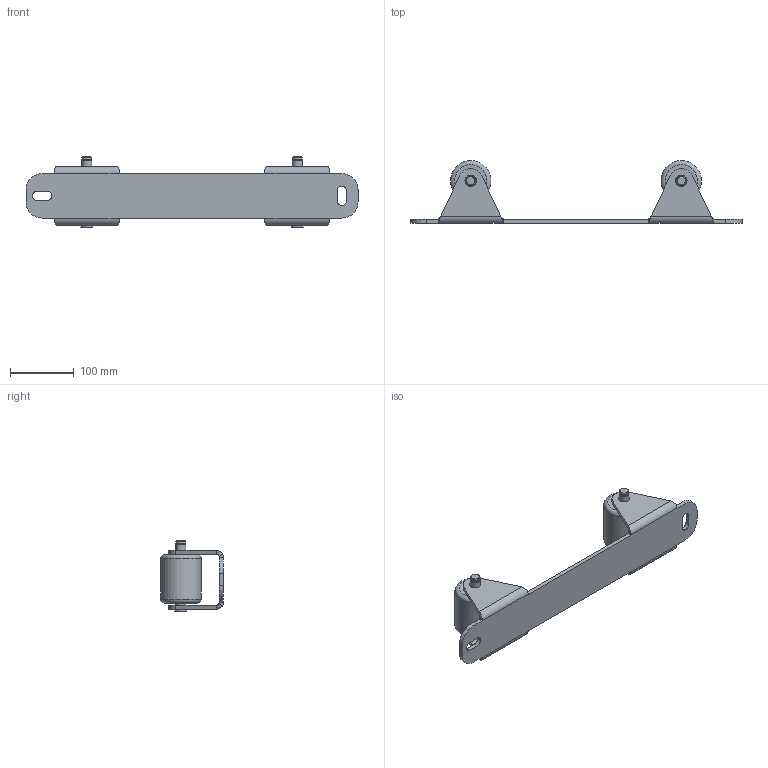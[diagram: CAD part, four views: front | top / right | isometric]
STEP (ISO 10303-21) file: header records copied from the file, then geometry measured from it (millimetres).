
FILE_DESCRIPTION (( 'STEP AP203' ), '1' );
FILE_NAME ('3000-ST-01-001.STEP', '2022-07-19T19:28:12', ( '' ), ( '' ), 'SwSTEP 2.0', 'SolidWorks 2019', '' );
FILE_SCHEMA (( 'CONFIG_CONTROL_DESIGN' ));
Length unit declared in the file: inch
Products named in the file (1): 3000-ST-01-001
Bounding box: 520.7 x 98.36 x 110.49 mm (x, y, z)
Volume: 843967.7 mm3; surface area: 185458 mm2
Topology: 5 solids, 5 shells, 120 faces, 268 edges, 164 vertices
Faces by surface type: plane 60, cylinder 36, torus 10, bspline 8, cone 6
Full cylindrical faces by diameter (mm): 12.319 x2, 15.621 x4, 16.667 x2, 18.034 x4, 18.796 x2, 63.5 x2
Entity records: 3307 total; most frequent: CARTESIAN_POINT 713, DIRECTION 514, ORIENTED_EDGE 464, EDGE_CURVE 232, AXIS2_PLACEMENT_3D 201, EDGE_LOOP 174, VERTEX_POINT 160, FACE_OUTER_BOUND 146
